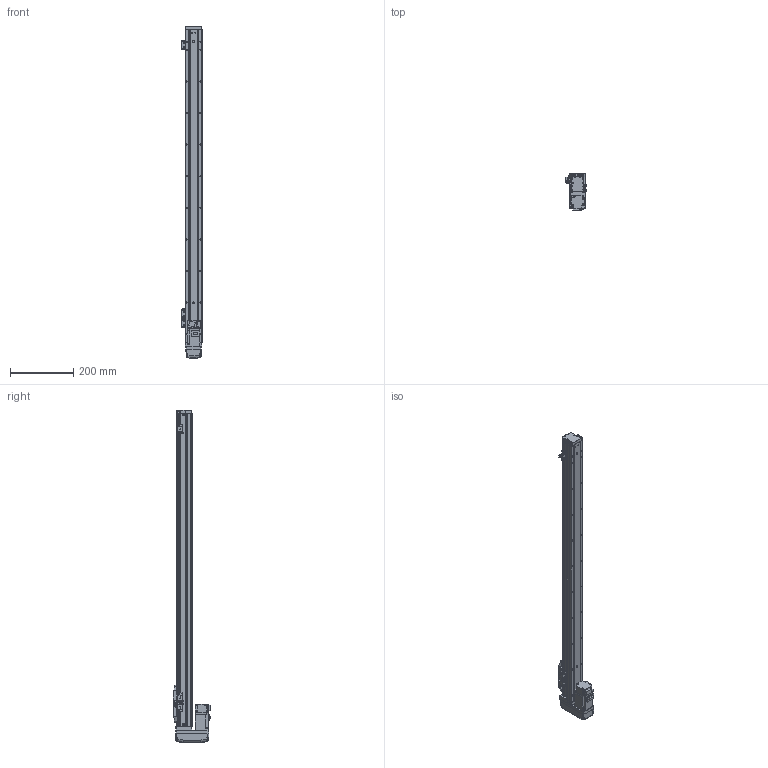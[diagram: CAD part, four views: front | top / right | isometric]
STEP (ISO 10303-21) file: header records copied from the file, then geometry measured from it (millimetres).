
FILE_DESCRIPTION (( 'STEP AP203' ), '1' );
FILE_NAME ('GTH5-850-BM-M10-C4.step', '2023-08-28T00:49:50', ( '微软用户' ), ( '微软中国' ), 'SwSTEP 2.0', 'SolidWorks 2020', '' );
FILE_SCHEMA (( 'CONFIG_CONTROL_DESIGN' ));
Length unit declared in the file: millimetre
Products named in the file (19): BTH-M3X5X6; GBT96.1-2002 3×0.8; GTH50-026; GTH50-001_850; GTH50-024; GTH5-850-BM-M10-C4; GBT 70.1-M4×16; GBT 70.1-M2.5×6; GTH50-003; GTH50-028; GTH50-006; GTH50-013; GTH50-022-1; GTH50-004; GTH50-023; HG-KR13; GBT 70.3-M3℅6; GBT 70.1-M3℅6; GTH50-027-1_BTHA50-027-2
Assembly tree (57 placements, depth 2):
  GTH5-850-BM-M10-C4
    GTH50-006
    GTH50-004
    GBT 70.3-M3℅6  x4
    BTH-M3X5X6  x8
    GTH50-001_850
    GBT 70.1-M4×16  x8
    GTH50-003
    GTH50-013
    GTH50-023  x3
    GBT 70.1-M3℅6  x12
    GBT96.1-2002 3×0.8  x6
    GTH50-024  x3
    GBT 70.1-M2.5×6  x2
    GTH50-028  x2
    GTH50-022-1
    HG-KR13
    GTH50-027-1_BTHA50-027-2
    GTH50-026
Bounding box: 63.8 x 118.9 x 1050 mm (x, y, z)
Volume: 2327824.5 mm3; surface area: 365612.4 mm2
Topology: 59 solids, 59 shells, 2172 faces, 5052 edges, 3100 vertices
Faces by surface type: plane 1142, cylinder 601, cone 219, torus 162, bspline 40, sphere 8
Entity records: 40604 total; most frequent: CARTESIAN_POINT 8019, DIRECTION 6269, ORIENTED_EDGE 6018, EDGE_CURVE 3009, AXIS2_PLACEMENT_3D 2188, VERTEX_POINT 1902, LINE 1893, VECTOR 1893
